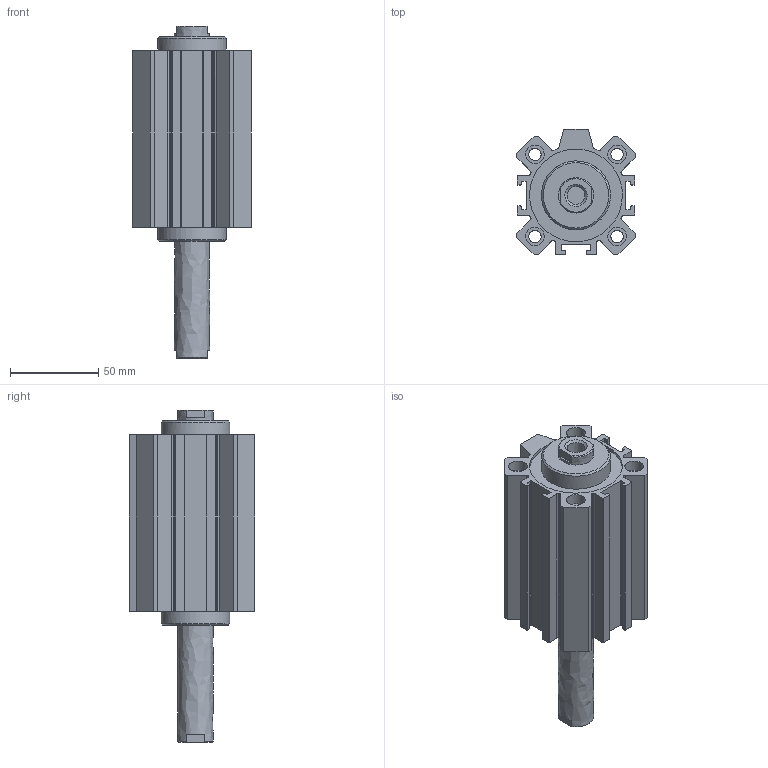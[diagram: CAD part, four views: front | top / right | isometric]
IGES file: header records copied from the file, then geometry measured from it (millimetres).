
Global section: file name: 1514_50_0060; native system: Autodesk Inventor 2014; preprocessor: unknown; author: A. Manieri; date: 20160824.133930; units: millimetre
Bounding box: 67 x 71 x 188 mm (x, y, z)
Volume: 286366.9 mm3; surface area: 93427 mm2
Topology: 2 solids, 2 shells, 178 faces, 482 edges, 328 vertices
Faces by surface type: bspline 178
